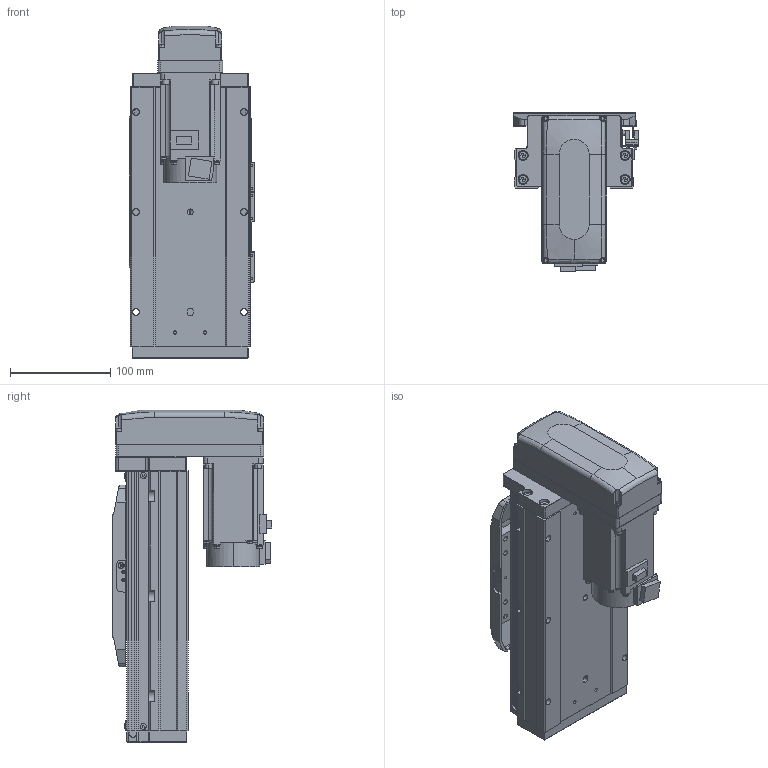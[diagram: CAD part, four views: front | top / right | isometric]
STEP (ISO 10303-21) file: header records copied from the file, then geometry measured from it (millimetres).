
FILE_DESCRIPTION (( 'STEP AP203' ), '1' );
FILE_NAME ('GTH12-50-BM-M40-C4.step', '2022-09-29T02:01:30', ( '微软用户' ), ( '微软中国' ), 'SwSTEP 2.0', 'SolidWorks 2020', '' );
FILE_SCHEMA (( 'CONFIG_CONTROL_DESIGN' ));
Length unit declared in the file: millimetre
Products named in the file (18): GTH120-013; GTH50-024; GBT 70.1-M3℅6; GBT96.1-2002 3×0.8; GBT 70.1-M5×16; GTH120-001_50; BTH-M3X5X6; GBT 70.3-M3℅8; hg-kn43j_-s100_; GTH120-003; GTH80-022; CTHA86-033_M40B; GTH120-006; GTH80-028; GTH120-027-1_GTH120-027-2; GTH120-004; GTH50-023; GTH12-50-BM-M40-C4
Assembly tree (59 placements, depth 2):
  GTH12-50-BM-M40-C4
    GTH120-001_50
    GTH120-003
    GTH120-006
    GTH120-004
    GTH120-013
    GBT 70.1-M3℅6  x14
    GBT 70.1-M5×16  x10
    GBT 70.3-M3℅8  x4
    GTH80-022
    GTH80-028  x2
    GTH50-023  x3
    GTH50-024  x3
    GBT96.1-2002 3×0.8  x6
    BTH-M3X5X6  x8
    hg-kn43j_-s100_
    CTHA86-033_M40B
    GTH120-027-1_GTH120-027-2
Bounding box: 125.7 x 159.8 x 332 mm (x, y, z)
Volume: 2952255.1 mm3; surface area: 374493.6 mm2
Topology: 61 solids, 61 shells, 2313 faces, 5350 edges, 3279 vertices
Faces by surface type: plane 1214, cylinder 643, cone 268, torus 174, sphere 8, bspline 6
Entity records: 41556 total; most frequent: CARTESIAN_POINT 7072, DIRECTION 6810, ORIENTED_EDGE 6310, EDGE_CURVE 3155, AXIS2_PLACEMENT_3D 2382, LINE 2046, VECTOR 2046, VERTEX_POINT 2000
